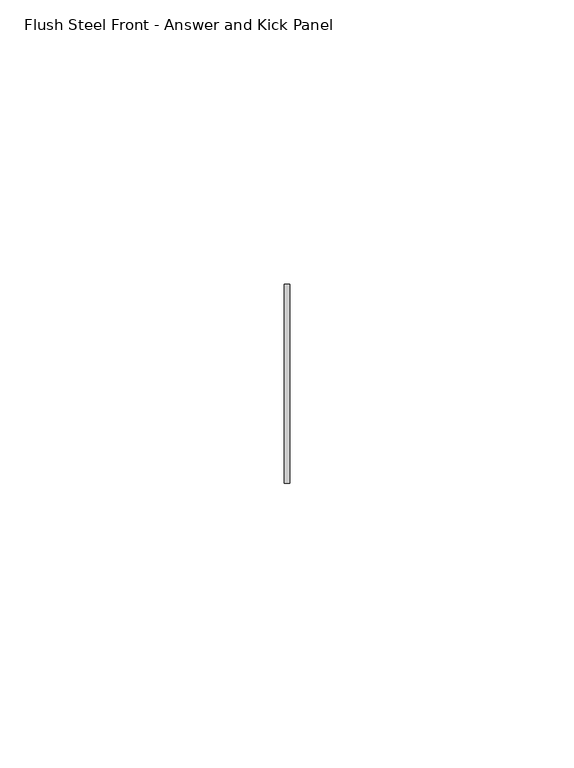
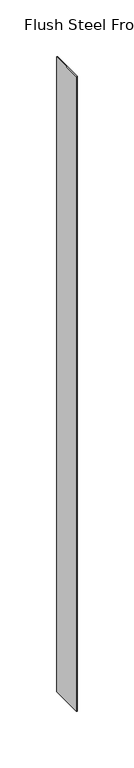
"""IFC4 building model written with IfcOpenShell, lengths in millimetres: furniture geometry, Steelcase - Universal Storage - Pedestal Filler - For Fixed Pedestal : Flush Steel Front - Answer and Kick Panel."""

from ifc_helpers import new_model, si_unit, origin, origin_with_axes, place, context, project, spatial, polyline, outline, extrude, source, transform, mapped, element, save


def flush_steel_front_answer_and_kick_panel_95218ad0(model_context):
    return source(origin(), model_context, "Body", "SweptSolid", [
        extrude(outline(polyline([(1.016, 35.052), (1.016, 0.0), (0.0, 0.0), (0.0, 35.052), (1.016, 35.052)])), origin_with_axes(), (0.0, 0.0, 1.0), 685.8),
    ])


if __name__ == "__main__":
    model = new_model("IFC4")
    model_context = context("Model", 3, world=origin())
    ifc_project = project(units=[si_unit("LENGTHUNIT", "METRE", prefix="MILLI")], contexts=[model_context])
    site = spatial("IfcSite", under=ifc_project)
    building = spatial("IfcBuilding", under=site)
    placement = place(None, origin())
    flush_steel_front_answer_and_kick_panel_shape = flush_steel_front_answer_and_kick_panel_95218ad0(model_context)
    element("IfcFurniture", 1, ObjectType="Steelcase - Universal Storage - Pedestal Filler - For Fixed Pedestal : Flush Steel Front - Answer and Kick Panel", at=placement, inside=building, context=model_context, shape_type="MappedRepresentation", body=[
        mapped(flush_steel_front_answer_and_kick_panel_shape, transform((0.0, 0.0, 0.0), x_axis=(1.0, 0.0, 0.0), y_axis=(0.0, 1.0, 0.0), z_axis=(0.0, 0.0, 1.0))),
    ])
    save(model, "model.ifc")
